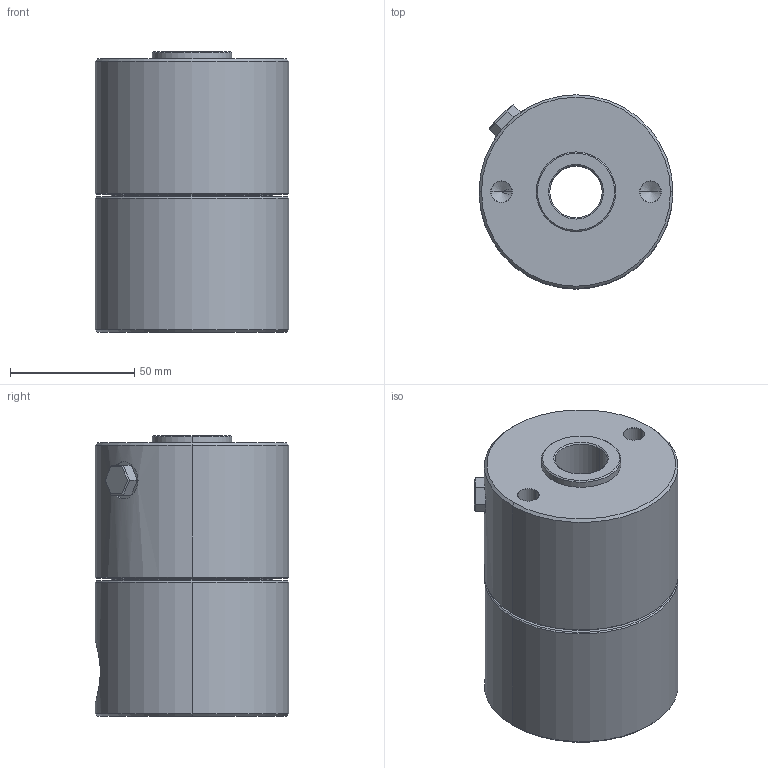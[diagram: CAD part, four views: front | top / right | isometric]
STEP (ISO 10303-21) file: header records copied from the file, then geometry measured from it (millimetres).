
FILE_DESCRIPTION (( 'STEP AP203' ), '1' );
FILE_NAME ('4610-412.STEP', '2016-01-29T10:16:35', ( '' ), ( '' ), 'SwSTEP 2.0', 'SolidWorks 2015', '' );
FILE_SCHEMA (( 'CONFIG_CONTROL_DESIGN' ));
Length unit declared in the file: millimetre
Products named in the file (1): 4610-412
Bounding box: 78 x 78 x 113 mm (x, y, z)
Volume: 480775.2 mm3; surface area: 48306.4 mm2
Topology: 1 solids, 2 shells, 71 faces, 152 edges, 86 vertices
Faces by surface type: cone 26, plane 21, cylinder 20, torus 4
Entity records: 2097 total; most frequent: CARTESIAN_POINT 486, DIRECTION 348, ORIENTED_EDGE 288, EDGE_CURVE 144, AXIS2_PLACEMENT_3D 136, VERTEX_POINT 86, EDGE_LOOP 82, VECTOR 76
